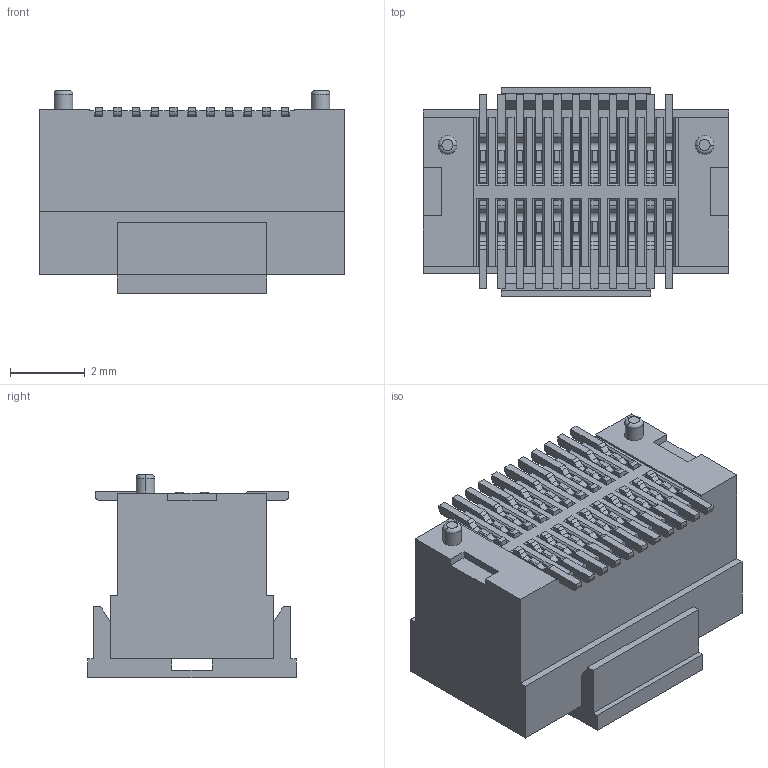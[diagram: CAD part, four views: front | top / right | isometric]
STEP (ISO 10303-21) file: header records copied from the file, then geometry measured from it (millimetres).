
FILE_DESCRIPTION(('CATIA V5 STEP Exchange'),'2;1');
FILE_NAME('F:\黄富鸿\板对板\PBB05\母座\H4.5\编带+盖\HC-PBB05-2-22-F-H4.5-G1-R-P-04（BTB0.5 双槽 母座 立贴 带柱 编带+盖）-HCTL.stp','2025-12-15T01:46:08+00:00',('none'),('none'),'CATIA Version 5 Release 20 GA (IN-10)','CATIA V5 STEP AP203','none');
FILE_SCHEMA(('CONFIG_CONTROL_DESIGN'));
Length unit declared in the file: millimetre
Products named in the file (1): Part2
Bounding box: 8.2 x 5.6 x 5.45 mm (x, y, z)
Volume: 142.2 mm3; surface area: 820.2 mm2
Topology: 24 solids, 24 shells, 1690 faces, 4998 edges, 3316 vertices
Faces by surface type: plane 1110, cylinder 576, torus 4
Entity records: 48318 total; most frequent: ORIENTED_EDGE 9996, CARTESIAN_POINT 8849, DIRECTION 5450, EDGE_CURVE 4998, VECTOR 3750, LINE 3750, VERTEX_POINT 3316, EDGE_LOOP 1738
